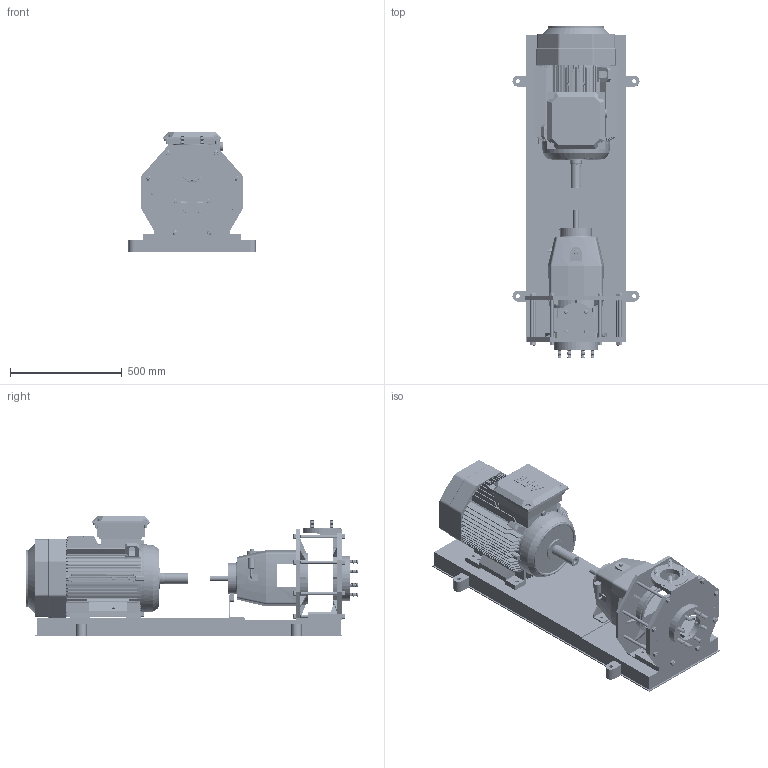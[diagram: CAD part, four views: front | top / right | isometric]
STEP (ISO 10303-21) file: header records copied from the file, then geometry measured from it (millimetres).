
FILE_DESCRIPTION((''),'2;1');
FILE_NAME('KSI 50-250--180 frame.stp','2010-08-04T14:02:29',(''),(''),'AutoCAD STEP 2000i','AutoCAD 2000i',', , ');
FILE_SCHEMA(('CONFIG_CONTROL_DESIGN'));
Length unit declared in the file: millimetre
Products named in the file (6): KSI 50-250--180 FRAME A; Motor; AnyAAA; AnyAA; AnyA; Any
Assembly tree (1 placements, depth 2):
  KSI 50-250--180 FRAME A
    Motor
  AnyAAA
  AnyAA
  AnyA
  Any
Bounding box: 570 x 1488.25 x 540.72 mm (x, y, z)
Volume: 124650681.4 mm3; surface area: 5682133.8 mm2
Topology: 46 solids, 46 shells, 8687 faces, 21888 edges, 13570 vertices
Faces by surface type: cone 2928, torus 2726, cylinder 1586, plane 1035, bspline 412
Entity records: 267311 total; most frequent: CARTESIAN_POINT 54706, DIRECTION 49913, ORIENTED_EDGE 43128, AXIS2_PLACEMENT_3D 21732, EDGE_CURVE 21564, CIRCLE 13453, VERTEX_POINT 13093, EDGE_LOOP 8925
